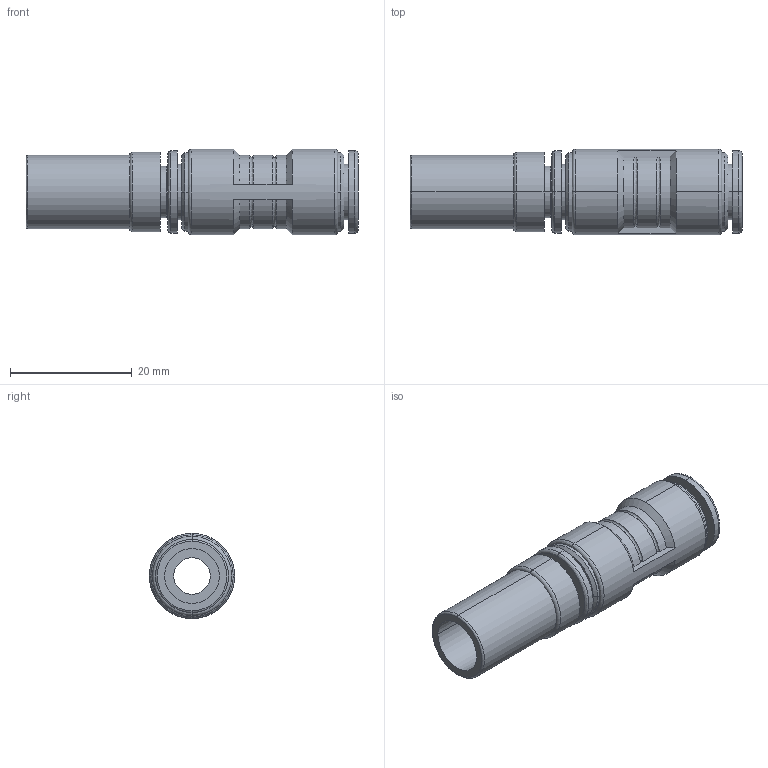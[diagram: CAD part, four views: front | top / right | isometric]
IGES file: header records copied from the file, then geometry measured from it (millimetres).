
Global section: file name: No Iges File Name specified; native system: AutoDesk Inventor R11.0; preprocessor: AutoDesk Inventor Iges Exporter R11.0; author: No Author specified; organization: No Organization specified; date: 20120321.163244; units: millimetre
Bounding box: 54.5 x 14 x 14 mm (x, y, z)
Volume: 4314.7 mm3; surface area: 4212.5 mm2
Topology: 1 solids, 1 shells, 78 faces, 175 edges, 111 vertices
Faces by surface type: bspline 30, cylinder 20, plane 12, torus 8, cone 4, revolution 4
